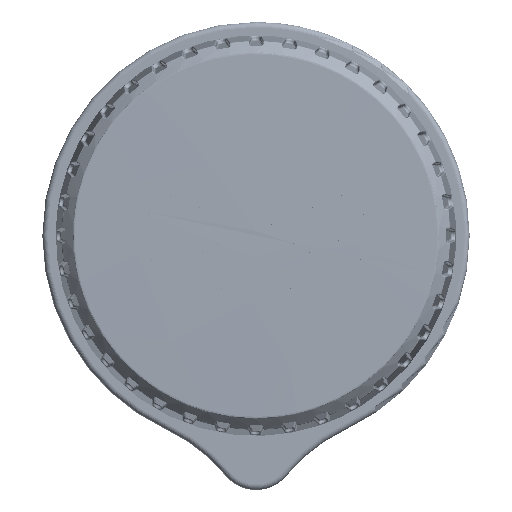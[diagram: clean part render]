
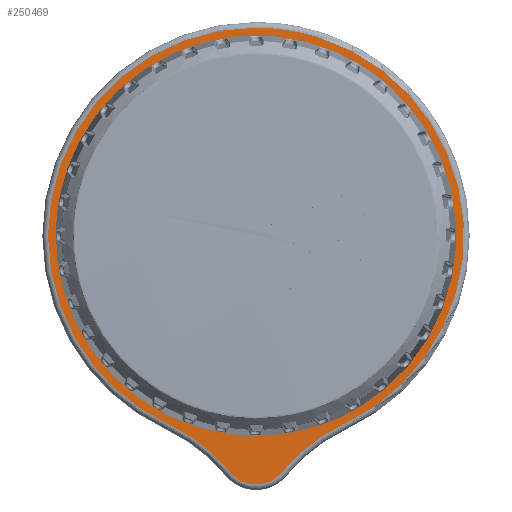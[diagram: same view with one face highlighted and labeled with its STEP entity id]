
A CAD part, top view. The second image highlights one B-rep face of the part: STEP entity #250469.
In plain terms, the highlighted planar face has unit normal (0, 0, 1).
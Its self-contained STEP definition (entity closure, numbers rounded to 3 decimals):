
#236131=CARTESIAN_POINT('',(0.,-38.25,-0.5));
#236132=DIRECTION('',(0.,0.,1.));
#236133=DIRECTION('',(-0.774,-0.633,0.));
#236134=AXIS2_PLACEMENT_3D('',#236131,#236132,#236133);
#236136=CARTESIAN_POINT('',(-28.641,-61.674,-0.5));
#236137=DIRECTION('',(0.,0.,-1.));
#236138=DIRECTION('',(0.421,0.907,0.));
#236139=AXIS2_PLACEMENT_3D('',#236136,#236137,#236138);
#236141=CARTESIAN_POINT('',(0.,0.,-0.5));
#236142=DIRECTION('',(0.,0.,1.));
#236143=DIRECTION('',(-0.866,-0.5,0.));
#236144=AXIS2_PLACEMENT_3D('',#236141,#236142,#236143);
#236146=CARTESIAN_POINT('',(0.,0.,-0.5));
#236147=DIRECTION('',(0.,0.,1.));
#236148=DIRECTION('',(-1.,0.,0.));
#236149=AXIS2_PLACEMENT_3D('',#236146,#236147,#236148);
#236151=CARTESIAN_POINT('',(0.,0.,-0.5));
#236152=DIRECTION('',(0.,0.,1.));
#236153=DIRECTION('',(0.,1.,0.));
#236154=AXIS2_PLACEMENT_3D('',#236151,#236152,#236153);
#236156=CARTESIAN_POINT('',(0.,0.,-0.5));
#236157=DIRECTION('',(0.,0.,1.));
#236158=DIRECTION('',(0.301,0.953,0.));
#236159=AXIS2_PLACEMENT_3D('',#236156,#236157,#236158);
#236161=CARTESIAN_POINT('',(0.,0.,-0.5));
#236162=DIRECTION('',(0.,0.,1.));
#236163=DIRECTION('',(0.421,-0.907,0.));
#236164=AXIS2_PLACEMENT_3D('',#236161,#236162,#236163);
#236166=CARTESIAN_POINT('',(28.641,-61.674,-0.5));
#236167=DIRECTION('',(0.,0.,-1.));
#236168=DIRECTION('',(-0.774,0.633,0.));
#236169=AXIS2_PLACEMENT_3D('',#236166,#236167,#236168);
#236171=CARTESIAN_POINT('',(0.,0.,-0.5));
#236172=DIRECTION('',(0.,0.,-1.));
#236173=DIRECTION('',(1.,0.,0.));
#236174=AXIS2_PLACEMENT_3D('',#236171,#236172,#236173);
#236176=CARTESIAN_POINT('',(0.,0.,-0.5));
#236177=DIRECTION('',(0.,0.,-1.));
#236178=DIRECTION('',(0.,1.,0.));
#236179=AXIS2_PLACEMENT_3D('',#236176,#236177,#236178);
#236181=CARTESIAN_POINT('',(0.,0.,-0.5));
#236182=DIRECTION('',(0.,0.,-1.));
#236183=DIRECTION('',(-1.,0.,0.));
#236184=AXIS2_PLACEMENT_3D('',#236181,#236182,#236183);
#236186=CARTESIAN_POINT('',(0.,0.,-0.5));
#236187=DIRECTION('',(0.,0.,-1.));
#236188=DIRECTION('',(0.,-1.,0.));
#236189=AXIS2_PLACEMENT_3D('',#236186,#236187,#236188);
#247803=CARTESIAN_POINT('',(0.,-31.5,-0.5));
#247804=CARTESIAN_POINT('',(-31.5,0.,-0.5));
#247805=VERTEX_POINT('',#247803);
#247806=VERTEX_POINT('',#247804);
#247813=CARTESIAN_POINT('',(31.5,0.,-0.5));
#247814=VERTEX_POINT('',#247813);
#247815=CARTESIAN_POINT('',(0.,37.,-0.5));
#247816=CARTESIAN_POINT('',(-37.,0.,-0.5));
#247817=VERTEX_POINT('',#247815);
#247818=VERTEX_POINT('',#247816);
#247819=CARTESIAN_POINT('',(-32.043,-18.5,-0.5));
#247820=VERTEX_POINT('',#247819);
#247827=CARTESIAN_POINT('',(15.584,-33.558,-0.5));
#247828=CARTESIAN_POINT('',(11.154,35.279,-0.5));
#247829=VERTEX_POINT('',#247827);
#247830=VERTEX_POINT('',#247828);
#250156=CARTESIAN_POINT('',(-4.644,-42.049,-0.5));
#250157=VERTEX_POINT('',#250156);
#250158=CARTESIAN_POINT('',(4.645,-42.048,-0.5));
#250159=VERTEX_POINT('',#250158);
#250160=CARTESIAN_POINT('',(-15.584,-33.558,-0.5));
#250161=VERTEX_POINT('',#250160);
#250162=CARTESIAN_POINT('',(0.,31.5,-0.5));
#250163=VERTEX_POINT('',#250162);
#250439=CARTESIAN_POINT('',(0.,-38.,-0.5));
#250440=DIRECTION('',(0.,0.,1.));
#250441=DIRECTION('',(1.,0.,0.));
#250442=AXIS2_PLACEMENT_3D('',#250439,#250440,#250441);
#250443=PLANE('',#250442);
#250445=ORIENTED_EDGE('',*,*,#250444,.F.);
#250447=ORIENTED_EDGE('',*,*,#250446,.F.);
#250448=ORIENTED_EDGE('',*,*,#250431,.F.);
#250449=ORIENTED_EDGE('',*,*,#250420,.F.);
#250450=ORIENTED_EDGE('',*,*,#250418,.F.);
#250452=ORIENTED_EDGE('',*,*,#250451,.F.);
#250454=ORIENTED_EDGE('',*,*,#250453,.F.);
#250456=ORIENTED_EDGE('',*,*,#250455,.F.);
#250457=EDGE_LOOP('',(#250445,#250447,#250448,#250449,#250450,#250452,#250454,
#250456));
#250458=FACE_OUTER_BOUND('',#250457,.F.);
#250460=ORIENTED_EDGE('',*,*,#250459,.F.);
#250462=ORIENTED_EDGE('',*,*,#250461,.F.);
#250464=ORIENTED_EDGE('',*,*,#250463,.F.);
#250466=ORIENTED_EDGE('',*,*,#250465,.F.);
#250467=EDGE_LOOP('',(#250460,#250462,#250464,#250466));
#250468=FACE_BOUND('',#250467,.F.);
#250469=ADVANCED_FACE('',(#250458,#250468),#250443,.T.);
#236135=CIRCLE('',#236134,6.);
#236140=CIRCLE('',#236139,31.);
#236145=CIRCLE('',#236144,37.);
#236150=CIRCLE('',#236149,37.);
#236155=CIRCLE('',#236154,37.);
#236160=CIRCLE('',#236159,37.);
#236165=CIRCLE('',#236164,37.);
#236170=CIRCLE('',#236169,31.);
#236175=CIRCLE('',#236174,31.5);
#236180=CIRCLE('',#236179,31.5);
#236185=CIRCLE('',#236184,31.5);
#236190=CIRCLE('',#236189,31.5);
#250418=EDGE_CURVE('',#247817,#247818,#236155,.T.);
#250420=EDGE_CURVE('',#247818,#247820,#236150,.T.);
#250431=EDGE_CURVE('',#247820,#250161,#236145,.T.);
#250444=EDGE_CURVE('',#250157,#250159,#236135,.T.);
#250446=EDGE_CURVE('',#250161,#250157,#236140,.T.);
#250451=EDGE_CURVE('',#247830,#247817,#236160,.T.);
#250453=EDGE_CURVE('',#247829,#247830,#236165,.T.);
#250455=EDGE_CURVE('',#250159,#247829,#236170,.T.);
#250459=EDGE_CURVE('',#247814,#247805,#236175,.T.);
#250461=EDGE_CURVE('',#250163,#247814,#236180,.T.);
#250463=EDGE_CURVE('',#247806,#250163,#236185,.T.);
#250465=EDGE_CURVE('',#247805,#247806,#236190,.T.);
